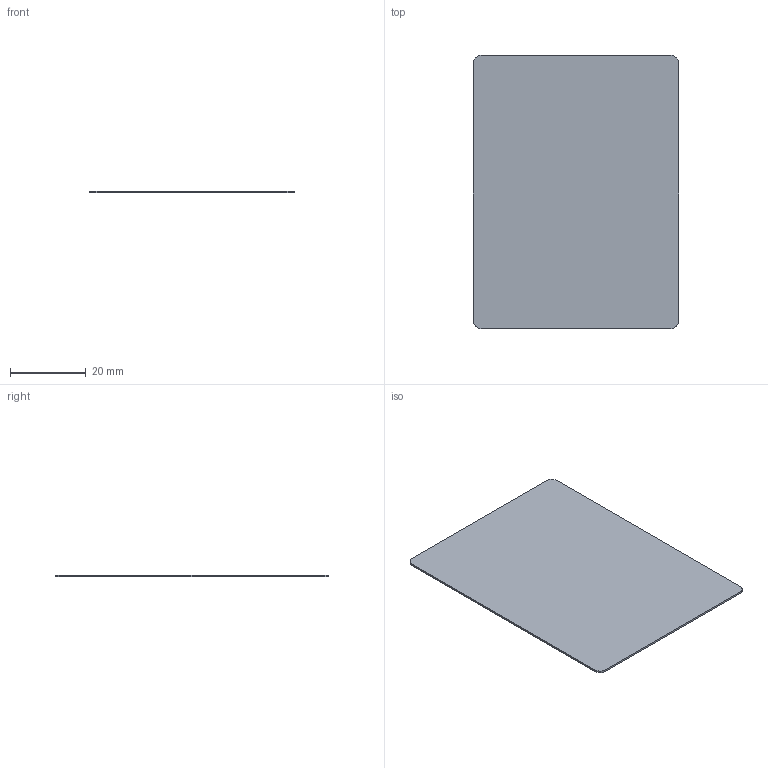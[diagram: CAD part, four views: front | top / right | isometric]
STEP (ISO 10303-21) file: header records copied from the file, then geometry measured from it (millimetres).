
FILE_DESCRIPTION(('Open CASCADE Model'),'2;1');
FILE_NAME('Open CASCADE Shape Model','2026-09-08T13:32:06',('Author'),( 'Open CASCADE'),'Open CASCADE STEP processor 7.7','Open CASCADE 7.7' ,'Unknown');
FILE_SCHEMA(('AUTOMOTIVE_DESIGN { 1 0 10303 214 1 1 1 1 }'));
Length unit declared in the file: millimetre
Products named in the file (1): Open CASCADE STEP translator 7.7 2
Bounding box: 54 x 72 x 0.5 mm (x, y, z)
Volume: 1942.3 mm3; surface area: 7893.4 mm2
Topology: 1 solids, 1 shells, 10 faces, 24 edges, 16 vertices
Faces by surface type: plane 6, cylinder 4
Entity records: 630 total; most frequent: CARTESIAN_POINT 123, DIRECTION 98, LINE 56, VECTOR 56, ORIENTED_EDGE 48, PCURVE 48, DEFINITIONAL_REPRESENTATION 48, EDGE_CURVE 24
